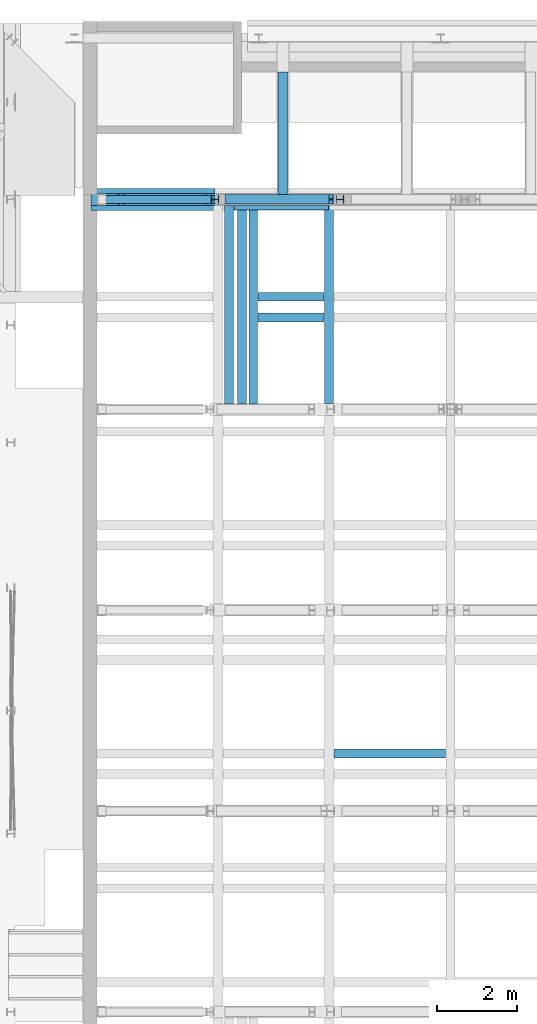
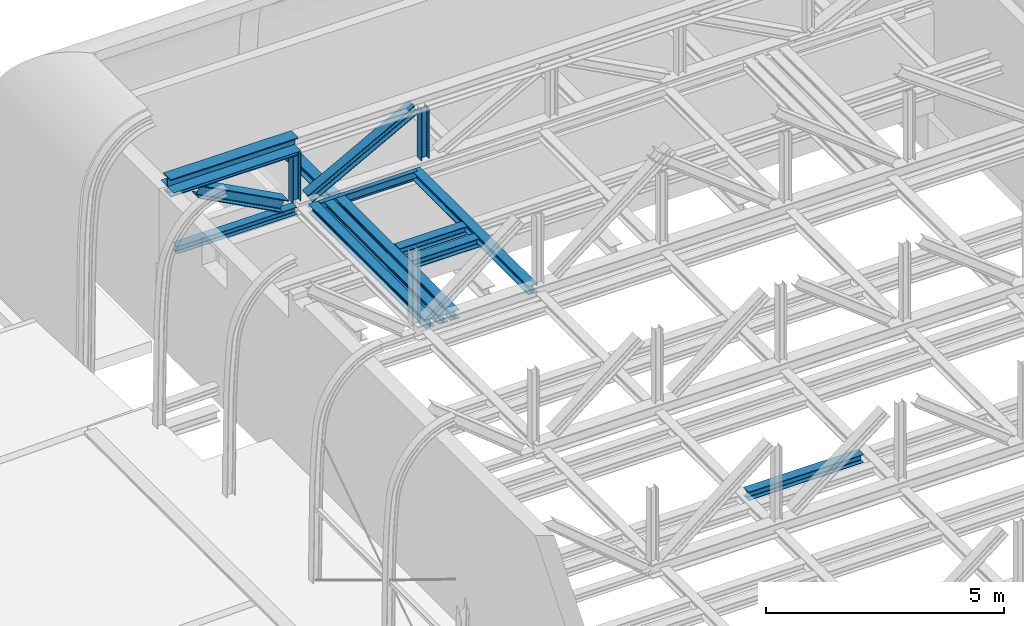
# One storey, part 17 of 29: 15 beams.
"""IFC2X3 building model written with IfcOpenShell, lengths in millimetres."""

from ifc_helpers import new_model, entity, si_unit, converted_unit, derived_unit, direction, frame, frame_2d, origin, place, context, subcontext, project, spatial, polyline, circle_curve, parameter, trimmed, segment, composite_curve, rectangle, i_section, outline, extrude, source, transform, mapped, material, material_list, type_object, type_shapes, element, save


model = new_model("IFC2X3")

# Units and contexts
model_context = context("Model", 3, precision=0.01, world=origin(), true_north=direction((6.12303176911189e-17, 1.0)))
body_context = subcontext(model_context, "Body", "Model", "MODEL_VIEW")
ifc_project = project(units=[si_unit("LENGTHUNIT", "METRE", prefix="MILLI"), si_unit("AREAUNIT", "SQUARE_METRE", prefix="MILLI"), si_unit("VOLUMEUNIT", "CUBIC_METRE"), converted_unit("PLANEANGLEUNIT", "DEGREE", entity("IfcRatioMeasure", 0.0174532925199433), si_unit("PLANEANGLEUNIT", "RADIAN"), dimensions=[0, 0, 0, 0, 0, 0, 0]), si_unit("MASSUNIT", "GRAM", prefix="KILO"), derived_unit("MASSDENSITYUNIT", [(si_unit("MASSUNIT", "GRAM", prefix="KILO"), 1), (si_unit("LENGTHUNIT", "METRE"), -3)]), derived_unit("MOMENTOFINERTIAUNIT", [(si_unit("LENGTHUNIT", "METRE"), 4)]), si_unit("TIMEUNIT", "SECOND"), si_unit("FREQUENCYUNIT", "HERTZ"), si_unit("THERMODYNAMICTEMPERATUREUNIT", "DEGREE_CELSIUS"), derived_unit("THERMALTRANSMITTANCEUNIT", [(si_unit("MASSUNIT", "GRAM", prefix="KILO"), 1), (si_unit("THERMODYNAMICTEMPERATUREUNIT", "KELVIN"), -1), (si_unit("TIMEUNIT", "SECOND"), -3)]), derived_unit("VOLUMETRICFLOWRATEUNIT", [(si_unit("LENGTHUNIT", "METRE"), 3), (si_unit("TIMEUNIT", "SECOND"), -1)]), si_unit("ELECTRICCURRENTUNIT", "AMPERE"), si_unit("ELECTRICVOLTAGEUNIT", "VOLT"), si_unit("POWERUNIT", "WATT"), si_unit("FORCEUNIT", "NEWTON", prefix="KILO"), si_unit("ILLUMINANCEUNIT", "LUX"), si_unit("LUMINOUSFLUXUNIT", "LUMEN"), si_unit("LUMINOUSINTENSITYUNIT", "CANDELA"), derived_unit("USERDEFINED", [(si_unit("MASSUNIT", "GRAM", prefix="KILO"), -1), (si_unit("LENGTHUNIT", "METRE"), -2), (si_unit("TIMEUNIT", "SECOND"), 3), (si_unit("LUMINOUSFLUXUNIT", "LUMEN"), 1)]), derived_unit("LINEARVELOCITYUNIT", [(si_unit("LENGTHUNIT", "METRE"), 1), (si_unit("TIMEUNIT", "SECOND"), -1)]), si_unit("PRESSUREUNIT", "PASCAL"), derived_unit("USERDEFINED", [(si_unit("LENGTHUNIT", "METRE"), -2), (si_unit("MASSUNIT", "GRAM", prefix="KILO"), 1), (si_unit("TIMEUNIT", "SECOND"), -2)]), derived_unit("LINEARFORCEUNIT", [(si_unit("MASSUNIT", "GRAM", prefix="KILO"), 1), (si_unit("LENGTHUNIT", "METRE"), 1), (si_unit("TIMEUNIT", "SECOND"), -2), (si_unit("LENGTHUNIT", "METRE"), -1)]), derived_unit("PLANARFORCEUNIT", [(si_unit("MASSUNIT", "GRAM", prefix="KILO"), 1), (si_unit("LENGTHUNIT", "METRE"), 1), (si_unit("TIMEUNIT", "SECOND"), -2), (si_unit("LENGTHUNIT", "METRE"), -2)])], contexts=[model_context])

# Site, building, storey
site_placement = place(None, origin())
site = spatial("IfcSite", under=ifc_project, at=site_placement, Name="Theater aan de Parade", CompositionType="ELEMENT")
building_placement = place(site_placement, origin())
building = spatial("IfcBuilding", under=site, at=building_placement, Name="Theater aan de Parade", CompositionType="ELEMENT")
storey_placement = place(building_placement, frame((0.0, 0.0, 20300.0)))
storey = spatial("IfcBuildingStorey", under=building, at=storey_placement, Name="05 vijfde verdieping", CompositionType="ELEMENT", Elevation=20300.0)

# Beams
ifc_material_1 = material(Name="00_PBT_MAT_staal_S355")
beam_type_1 = type_object("IfcBeamType", Name="28_PBT_SF_staal_H-profiel:S355_HE220B", PredefinedType="NOTDEFINED")
beam_1_placement = place(storey_placement, frame((73483.3589914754, 40060.0, 0.0), z_axis=(0.0, 0.0, 1.0), x_axis=(0.0, 1.0, 0.0)))
element("IfcBeam", 1, at=beam_1_placement, inside=storey, type_object=beam_type_1, material=ifc_material_1, Name="28_PBT_SF_staal_H-profiel:S355_HE220B", ObjectType="28_PBT_SF_staal_H-profiel:S355_HE220B", context=body_context, shape_type="SweptSolid", body=[
    extrude(outline(composite_curve([segment(polyline([(94.0, -110.0), (110.0, -110.0)]), True, "CONTINUOUS"), segment(polyline([(110.0, -110.0), (110.0, 110.0)]), True, "CONTINUOUS"), segment(polyline([(110.0, 110.0), (94.0, 110.0)]), True, "CONTINUOUS"), segment(polyline([(94.0, 110.0), (94.0, 22.7499999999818)]), True, "CONTINUOUS"), segment(trimmed(circle_curve(frame_2d((76.0, 22.7499999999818), x_axis=(1.0, 0.0)), 17.9999999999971), [parameter(269.999999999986)], [parameter(0.0)], True, "PARAMETER"), False, "CONTINUOUS"), segment(polyline([(76.0, 4.74999999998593), (-76.0, 4.74999999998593)]), True, "CONTINUOUS"), segment(trimmed(circle_curve(frame_2d((-76.0, 22.7499999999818), x_axis=(0.0, -1.0)), 17.9999999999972), [parameter(269.999999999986)], [parameter(0.0)], True, "PARAMETER"), False, "CONTINUOUS"), segment(polyline([(-94.0, 22.7499999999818), (-94.0, 110.0)]), True, "CONTINUOUS"), segment(polyline([(-94.0, 110.0), (-110.0, 110.0)]), True, "CONTINUOUS"), segment(polyline([(-110.0, 110.0), (-110.0, -110.0)]), True, "CONTINUOUS"), segment(polyline([(-110.0, -110.0), (-94.0, -110.0)]), True, "CONTINUOUS"), segment(polyline([(-94.0, -110.0), (-94.0, -22.7500000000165)]), True, "CONTINUOUS"), segment(trimmed(circle_curve(frame_2d((-76.0, -22.7500000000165), x_axis=(-1.0, 0.0)), 17.9999999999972), [parameter(269.999999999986)], [parameter(0.0)], True, "PARAMETER"), False, "CONTINUOUS"), segment(polyline([(-76.0, -4.75000000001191), (76.0, -4.75000000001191)]), True, "CONTINUOUS"), segment(trimmed(circle_curve(frame_2d((76.0, -22.7500000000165), x_axis=(0.0, 1.0)), 17.9999999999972), [parameter(269.999999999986)], [parameter(0.0)], True, "PARAMETER"), False, "CONTINUOUS"), segment(polyline([(94.0, -22.7500000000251), (94.0, -110.0)]), True, "CONTINUOUS")], self_intersect=False)), frame((0.0, 0.0, 2360.0), z_axis=(1.0, 0.0, 0.0), x_axis=(0.0, 0.0, -1.0)), (0.0, 0.0, 1.0), 4925.00000000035),
])
beam_2_placement = place(storey_placement, frame((73483.3589914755, 42712.5000000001, 0.0), z_axis=(0.0, 0.0, 1.0), x_axis=(-1.0, 0.0, 0.0)))
element("IfcBeam", 2, at=beam_2_placement, inside=storey, type_object=beam_type_1, material=ifc_material_1, Name="28_PBT_SF_staal_H-profiel:S355_HE220B", ObjectType="28_PBT_SF_staal_H-profiel:S355_HE220B", context=body_context, shape_type="SweptSolid", body=[
    extrude(outline(composite_curve([segment(polyline([(94.0, -110.0), (110.0, -110.0)]), True, "CONTINUOUS"), segment(polyline([(110.0, -110.0), (110.0, 110.0)]), True, "CONTINUOUS"), segment(polyline([(110.0, 110.0), (94.0, 110.0)]), True, "CONTINUOUS"), segment(polyline([(94.0, 110.0), (94.0, 22.7500000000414)]), True, "CONTINUOUS"), segment(trimmed(circle_curve(frame_2d((76.0, 22.7500000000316), x_axis=(1.0, 0.0)), 17.9999999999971), [parameter(269.999999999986)], [parameter(0.0)], True, "PARAMETER"), False, "CONTINUOUS"), segment(polyline([(76.0, 4.7500000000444), (-76.0, 4.74999999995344)]), True, "CONTINUOUS"), segment(trimmed(circle_curve(frame_2d((-76.0, 22.7499999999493), x_axis=(0.0, -1.0)), 17.9999999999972), [parameter(269.999999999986)], [parameter(0.0)], True, "PARAMETER"), False, "CONTINUOUS"), segment(polyline([(-94.0, 22.7499999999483), (-94.0, 110.0)]), True, "CONTINUOUS"), segment(polyline([(-94.0, 110.0), (-110.0, 110.0)]), True, "CONTINUOUS"), segment(polyline([(-110.0, 110.0), (-110.0, -110.0)]), True, "CONTINUOUS"), segment(polyline([(-110.0, -110.0), (-94.0, -110.0)]), True, "CONTINUOUS"), segment(polyline([(-94.0, -110.0), (-94.0, -22.7500000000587)]), True, "CONTINUOUS"), segment(trimmed(circle_curve(frame_2d((-76.0, -22.750000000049), x_axis=(-1.0, 0.0)), 17.9999999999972), [parameter(269.999999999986)], [parameter(0.0)], True, "PARAMETER"), False, "CONTINUOUS"), segment(polyline([(-76.0, -4.75000000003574), (76.0, -4.7499999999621)]), True, "CONTINUOUS"), segment(trimmed(circle_curve(frame_2d((76.0, -22.7499999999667), x_axis=(0.0, 1.0)), 17.9999999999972), [parameter(269.999999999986)], [parameter(0.0)], True, "PARAMETER"), False, "CONTINUOUS"), segment(polyline([(94.0, -22.7499999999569), (94.0, -110.0)]), True, "CONTINUOUS")], self_intersect=False)), frame((122.700000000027, 0.0, 2360.0), z_axis=(1.0, 0.0, 0.0), x_axis=(0.0, 0.0, -1.0)), (0.0, 0.0, 1.0), 1642.95899086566),
])
beam_3_placement = place(storey_placement, frame((73483.3589914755, 42198.4998000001, 0.0), z_axis=(0.0, 0.0, 1.0), x_axis=(-1.0, 0.0, 0.0)))
element("IfcBeam", 3, at=beam_3_placement, inside=storey, type_object=beam_type_1, material=ifc_material_1, Name="28_PBT_SF_staal_H-profiel:S355_HE220B", ObjectType="28_PBT_SF_staal_H-profiel:S355_HE220B", context=body_context, shape_type="SweptSolid", body=[
    extrude(outline(composite_curve([segment(polyline([(94.0, -110.0), (110.0, -110.0)]), True, "CONTINUOUS"), segment(polyline([(110.0, -110.0), (110.0, 110.0)]), True, "CONTINUOUS"), segment(polyline([(110.0, 110.0), (94.0, 110.0)]), True, "CONTINUOUS"), segment(polyline([(94.0, 110.0), (94.0, 22.7500000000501)]), True, "CONTINUOUS"), segment(trimmed(circle_curve(frame_2d((76.0, 22.7500000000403), x_axis=(1.0, 0.0)), 17.9999999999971), [parameter(269.999999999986)], [parameter(0.0)], True, "PARAMETER"), False, "CONTINUOUS"), segment(polyline([(76.0, 4.75000000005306), (-76.0, 4.7499999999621)]), True, "CONTINUOUS"), segment(trimmed(circle_curve(frame_2d((-76.0, 22.749999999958), x_axis=(0.0, -1.0)), 17.9999999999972), [parameter(269.999999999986)], [parameter(0.0)], True, "PARAMETER"), False, "CONTINUOUS"), segment(polyline([(-94.0, 22.7499999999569), (-94.0, 110.0)]), True, "CONTINUOUS"), segment(polyline([(-94.0, 110.0), (-110.0, 110.0)]), True, "CONTINUOUS"), segment(polyline([(-110.0, 110.0), (-110.0, -110.0)]), True, "CONTINUOUS"), segment(polyline([(-110.0, -110.0), (-94.0, -110.0)]), True, "CONTINUOUS"), segment(polyline([(-94.0, -110.0), (-94.0, -22.7500000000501)]), True, "CONTINUOUS"), segment(trimmed(circle_curve(frame_2d((-76.0, -22.7500000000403), x_axis=(-1.0, 0.0)), 17.9999999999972), [parameter(269.999999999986)], [parameter(0.0)], True, "PARAMETER"), False, "CONTINUOUS"), segment(polyline([(-76.0, -4.75000000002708), (76.0, -4.74999999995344)]), True, "CONTINUOUS"), segment(trimmed(circle_curve(frame_2d((76.0, -22.749999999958), x_axis=(0.0, 1.0)), 17.9999999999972), [parameter(269.999999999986)], [parameter(0.0)], True, "PARAMETER"), False, "CONTINUOUS"), segment(polyline([(94.0, -22.7499999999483), (94.0, -110.0)]), True, "CONTINUOUS")], self_intersect=False)), frame((122.700000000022, 0.0, 2360.0), z_axis=(1.0, 0.0, 0.0), x_axis=(0.0, 0.0, -1.0)), (0.0, 0.0, 1.0), 1642.95899086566),
])
beam_4_placement = place(storey_placement, frame((76509.4104367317, 31340.5, 0.0), z_axis=(0.0, 0.0, 1.0), x_axis=(-1.0, 0.0, 0.0)))
element("IfcBeam", 4, at=beam_4_placement, inside=storey, type_object=beam_type_1, material=ifc_material_1, Name="28_PBT_SF_staal_H-profiel:S355_HE220B", ObjectType="28_PBT_SF_staal_H-profiel:S355_HE220B", context=body_context, shape_type="SweptSolid", body=[
    extrude(outline(composite_curve([segment(polyline([(94.0, -110.0), (110.0, -110.0)]), True, "CONTINUOUS"), segment(polyline([(110.0, -110.0), (110.0, 110.0)]), True, "CONTINUOUS"), segment(polyline([(110.0, 110.0), (94.0, 110.0)]), True, "CONTINUOUS"), segment(polyline([(94.0, 110.0), (94.0, 22.7500000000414)]), True, "CONTINUOUS"), segment(trimmed(circle_curve(frame_2d((76.0, 22.7500000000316), x_axis=(1.0, 0.0)), 18.0000000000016), [parameter(270.0)], [parameter(0.0)], True, "PARAMETER"), False, "CONTINUOUS"), segment(polyline([(76.0, 4.75000000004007), (-76.0, 4.74999999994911)]), True, "CONTINUOUS"), segment(trimmed(circle_curve(frame_2d((-76.0, 22.7499999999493), x_axis=(0.0, -1.0)), 18.0000000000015), [parameter(270.0)], [parameter(0.0)], True, "PARAMETER"), False, "CONTINUOUS"), segment(polyline([(-94.0, 22.7499999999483), (-94.0, 110.0)]), True, "CONTINUOUS"), segment(polyline([(-94.0, 110.0), (-110.0, 110.0)]), True, "CONTINUOUS"), segment(polyline([(-110.0, 110.0), (-110.0, -110.0)]), True, "CONTINUOUS"), segment(polyline([(-110.0, -110.0), (-94.0, -110.0)]), True, "CONTINUOUS"), segment(polyline([(-94.0, -110.0), (-94.0, -22.7500000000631)]), True, "CONTINUOUS"), segment(trimmed(circle_curve(frame_2d((-76.0, -22.7500000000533), x_axis=(-1.0, 0.0)), 17.9999999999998), [parameter(270.0)], [parameter(0.0)], True, "PARAMETER"), False, "CONTINUOUS"), segment(polyline([(-76.0, -4.7500000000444), (76.0, -4.74999999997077)]), True, "CONTINUOUS"), segment(trimmed(circle_curve(frame_2d((76.0, -22.749999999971), x_axis=(0.0, 1.0)), 18.0000000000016), [parameter(270.0)], [parameter(0.0)], True, "PARAMETER"), False, "CONTINUOUS"), segment(polyline([(94.0, -22.7499999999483), (94.0, -110.0)]), True, "CONTINUOUS")], self_intersect=False)), frame((122.699999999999, 0.0, 2360.0), z_axis=(1.0, 0.0, 0.0), x_axis=(0.0, 0.0, -1.0)), (0.0, 0.0, 1.0), 2780.65144525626),
])
beam_5_placement = place(storey_placement, frame((70995.0, 40060.0, 0.0), z_axis=(0.0, 0.0, 1.0), x_axis=(0.0, 1.0, 0.0)))
element("IfcBeam", 5, at=beam_5_placement, inside=storey, type_object=beam_type_1, material=ifc_material_1, Name="28_PBT_SF_staal_H-profiel:S355_HE220B", ObjectType="28_PBT_SF_staal_H-profiel:S355_HE220B", context=body_context, shape_type="SweptSolid", body=[
    extrude(outline(composite_curve([segment(polyline([(94.0, -110.0), (110.0, -110.0)]), True, "CONTINUOUS"), segment(polyline([(110.0, -110.0), (110.0, 110.0)]), True, "CONTINUOUS"), segment(polyline([(110.0, 110.0), (94.0, 110.0)]), True, "CONTINUOUS"), segment(polyline([(94.0, 110.0), (94.0, 22.7500000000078)]), True, "CONTINUOUS"), segment(trimmed(circle_curve(frame_2d((76.0, 22.7500000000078), x_axis=(1.0, 0.0)), 17.9999999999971), [parameter(269.999999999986)], [parameter(0.0)], True, "PARAMETER"), False, "CONTINUOUS"), segment(polyline([(76.0, 4.75000000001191), (-76.0, 4.75000000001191)]), True, "CONTINUOUS"), segment(trimmed(circle_curve(frame_2d((-76.0, 22.7500000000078), x_axis=(0.0, -1.0)), 17.9999999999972), [parameter(269.999999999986)], [parameter(0.0)], True, "PARAMETER"), False, "CONTINUOUS"), segment(polyline([(-94.0, 22.7500000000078), (-94.0, 110.0)]), True, "CONTINUOUS"), segment(polyline([(-94.0, 110.0), (-110.0, 110.0)]), True, "CONTINUOUS"), segment(polyline([(-110.0, 110.0), (-110.0, -110.0)]), True, "CONTINUOUS"), segment(polyline([(-110.0, -110.0), (-94.0, -110.0)]), True, "CONTINUOUS"), segment(polyline([(-94.0, -110.0), (-94.0, -22.7499999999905)]), True, "CONTINUOUS"), segment(trimmed(circle_curve(frame_2d((-76.0, -22.7499999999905), x_axis=(-1.0, 0.0)), 17.9999999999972), [parameter(269.999999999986)], [parameter(0.0)], True, "PARAMETER"), False, "CONTINUOUS"), segment(polyline([(-76.0, -4.74999999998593), (76.0, -4.74999999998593)]), True, "CONTINUOUS"), segment(trimmed(circle_curve(frame_2d((76.0, -22.7499999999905), x_axis=(0.0, 1.0)), 17.9999999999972), [parameter(269.999999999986)], [parameter(0.0)], True, "PARAMETER"), False, "CONTINUOUS"), segment(polyline([(94.0, -22.7499999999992), (94.0, -110.0)]), True, "CONTINUOUS")], self_intersect=False)), frame((0.0, 0.0, 2360.0), z_axis=(1.0, 0.0, 0.0), x_axis=(0.0, 0.0, -1.0)), (0.0, 0.0, 1.0), 4925.00000000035),
])
beam_6_placement = place(storey_placement, frame((71315.0, 40060.0, 0.0), z_axis=(0.0, 0.0, 1.0), x_axis=(0.0, 1.0, 0.0)))
element("IfcBeam", 6, at=beam_6_placement, inside=storey, type_object=beam_type_1, material=ifc_material_1, Name="28_PBT_SF_staal_H-profiel:S355_HE220B", ObjectType="28_PBT_SF_staal_H-profiel:S355_HE220B", context=body_context, shape_type="SweptSolid", body=[
    extrude(outline(composite_curve([segment(polyline([(94.0, -110.0), (110.0, -110.0)]), True, "CONTINUOUS"), segment(polyline([(110.0, -110.0), (110.0, 110.0)]), True, "CONTINUOUS"), segment(polyline([(110.0, 110.0), (94.0, 110.0)]), True, "CONTINUOUS"), segment(polyline([(94.0, 110.0), (94.0, 22.7499999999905)]), True, "CONTINUOUS"), segment(trimmed(circle_curve(frame_2d((76.0, 22.7499999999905), x_axis=(1.0, 0.0)), 17.9999999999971), [parameter(269.999999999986)], [parameter(0.0)], True, "PARAMETER"), False, "CONTINUOUS"), segment(polyline([(76.0, 4.74999999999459), (-76.0, 4.74999999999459)]), True, "CONTINUOUS"), segment(trimmed(circle_curve(frame_2d((-76.0, 22.7499999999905), x_axis=(0.0, -1.0)), 17.9999999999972), [parameter(269.999999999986)], [parameter(0.0)], True, "PARAMETER"), False, "CONTINUOUS"), segment(polyline([(-94.0, 22.7499999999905), (-94.0, 110.0)]), True, "CONTINUOUS"), segment(polyline([(-94.0, 110.0), (-110.0, 110.0)]), True, "CONTINUOUS"), segment(polyline([(-110.0, 110.0), (-110.0, -110.0)]), True, "CONTINUOUS"), segment(polyline([(-110.0, -110.0), (-94.0, -110.0)]), True, "CONTINUOUS"), segment(polyline([(-94.0, -110.0), (-94.0, -22.7500000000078)]), True, "CONTINUOUS"), segment(trimmed(circle_curve(frame_2d((-76.0, -22.7500000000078), x_axis=(-1.0, 0.0)), 17.9999999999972), [parameter(269.999999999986)], [parameter(0.0)], True, "PARAMETER"), False, "CONTINUOUS"), segment(polyline([(-76.0, -4.75000000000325), (76.0, -4.75000000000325)]), True, "CONTINUOUS"), segment(trimmed(circle_curve(frame_2d((76.0, -22.7500000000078), x_axis=(0.0, 1.0)), 17.9999999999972), [parameter(269.999999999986)], [parameter(0.0)], True, "PARAMETER"), False, "CONTINUOUS"), segment(polyline([(94.0, -22.7500000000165), (94.0, -110.0)]), True, "CONTINUOUS")], self_intersect=False)), frame((0.0, 0.0, 2360.0), z_axis=(1.0, 0.0, 0.0), x_axis=(0.0, 0.0, -1.0)), (0.0, 0.0, 1.0), 4925.00000000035),
])
beam_7_placement = place(storey_placement, frame((71595.0, 40060.0, 0.0), z_axis=(0.0, 0.0, 1.0), x_axis=(0.0, 1.0, 0.0)))
element("IfcBeam", 7, at=beam_7_placement, inside=storey, type_object=beam_type_1, material=ifc_material_1, Name="28_PBT_SF_staal_H-profiel:S355_HE220B", ObjectType="28_PBT_SF_staal_H-profiel:S355_HE220B", context=body_context, shape_type="SweptSolid", body=[
    extrude(outline(composite_curve([segment(polyline([(94.0, -110.0), (110.0, -110.0)]), True, "CONTINUOUS"), segment(polyline([(110.0, -110.0), (110.0, 110.0)]), True, "CONTINUOUS"), segment(polyline([(110.0, 110.0), (94.0, 110.0)]), True, "CONTINUOUS"), segment(polyline([(94.0, 110.0), (94.0, 22.7500000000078)]), True, "CONTINUOUS"), segment(trimmed(circle_curve(frame_2d((76.0, 22.7500000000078), x_axis=(1.0, 0.0)), 17.9999999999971), [parameter(269.999999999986)], [parameter(0.0)], True, "PARAMETER"), False, "CONTINUOUS"), segment(polyline([(76.0, 4.75000000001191), (-76.0, 4.75000000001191)]), True, "CONTINUOUS"), segment(trimmed(circle_curve(frame_2d((-76.0, 22.7500000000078), x_axis=(0.0, -1.0)), 17.9999999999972), [parameter(269.999999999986)], [parameter(0.0)], True, "PARAMETER"), False, "CONTINUOUS"), segment(polyline([(-94.0, 22.7500000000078), (-94.0, 110.0)]), True, "CONTINUOUS"), segment(polyline([(-94.0, 110.0), (-110.0, 110.0)]), True, "CONTINUOUS"), segment(polyline([(-110.0, 110.0), (-110.0, -110.0)]), True, "CONTINUOUS"), segment(polyline([(-110.0, -110.0), (-94.0, -110.0)]), True, "CONTINUOUS"), segment(polyline([(-94.0, -110.0), (-94.0, -22.7499999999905)]), True, "CONTINUOUS"), segment(trimmed(circle_curve(frame_2d((-76.0, -22.7499999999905), x_axis=(-1.0, 0.0)), 17.9999999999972), [parameter(269.999999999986)], [parameter(0.0)], True, "PARAMETER"), False, "CONTINUOUS"), segment(polyline([(-76.0, -4.74999999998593), (76.0, -4.74999999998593)]), True, "CONTINUOUS"), segment(trimmed(circle_curve(frame_2d((76.0, -22.7499999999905), x_axis=(0.0, 1.0)), 17.9999999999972), [parameter(269.999999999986)], [parameter(0.0)], True, "PARAMETER"), False, "CONTINUOUS"), segment(polyline([(94.0, -22.7499999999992), (94.0, -110.0)]), True, "CONTINUOUS")], self_intersect=False)), frame((0.0, 0.0, 2360.0), z_axis=(1.0, 0.0, 0.0), x_axis=(0.0, 0.0, -1.0)), (0.0, 0.0, 1.0), 4925.00000000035),
])
beam_type_2 = type_object("IfcBeamType", Name="28_PBT_SF_staal_H-profiel:S355_HE300B", PredefinedType="NOTDEFINED")
beam_8_placement = place(storey_placement, frame((67203.3195455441, 45135.0, 4250.0), z_axis=(0.469081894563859, 0.0, 0.883154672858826), x_axis=(0.883154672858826, 0.0, -0.469081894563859)))
element("IfcBeam", 8, at=beam_8_placement, inside=storey, type_object=beam_type_2, material=ifc_material_1, Name="28_PBT_SF_staal_H-profiel:S355_HE300B", ObjectType="28_PBT_SF_staal_H-profiel:S355_HE300B", context=body_context, shape_type="SweptSolid", body=[
    extrude(i_section(OverallWidth=300.000000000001, OverallDepth=299.999999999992, WebThickness=10.9999999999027, FlangeThickness=18.9999999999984, FilletRadius=26.9999999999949, at=frame_2d((0.0, 0.0), x_axis=(0.0, 1.0))), frame((1254.4302984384, 0.0, 0.0), z_axis=(1.0, 0.0, 0.0), x_axis=(0.0, 0.0, -1.0)), (0.0, 0.0, 1.0), 2309.06144656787),
])
beam_type_3 = type_object("IfcBeamType", Name="28_PBT_SF_staal_H-profiel:S355_HE200A", PredefinedType="NOTDEFINED")
beam_9_placement = place(storey_placement, frame((73751.2561009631, 45135.0, 2400.0), z_axis=(1.0, 0.0, 0.0), x_axis=(0.0, 0.0, 1.0)))
element("IfcBeam", 9, at=beam_9_placement, inside=storey, type_object=beam_type_3, material=ifc_material_1, Name="28_PBT_SF_staal_H-profiel:S355_HE200A", ObjectType="28_PBT_SF_staal_H-profiel:S355_HE200A", context=body_context, shape_type="SweptSolid", body=[
    extrude(i_section(OverallWidth=199.999999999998, OverallDepth=190.0, WebThickness=6.49999999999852, FlangeThickness=9.99999999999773, FilletRadius=17.9999999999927, at=frame_2d((-4.33431068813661e-12, -4.33431068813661e-12), x_axis=(0.0, 1.0))), frame((162.699999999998, 0.0, 0.0), z_axis=(1.0, 0.0, 0.0), x_axis=(0.0, 0.0, -1.0)), (0.0, 0.0, 1.0), 1297.55325826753),
])
beam_10_placement = place(storey_placement, frame((67742.4666036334, 45135.0, 2345.0)))
element("IfcBeam", 10, at=beam_10_placement, inside=storey, type_object=beam_type_3, material=ifc_material_1, Name="28_PBT_SF_staal_H-profiel:S355_HE200A", ObjectType="28_PBT_SF_staal_H-profiel:S355_HE200A", context=body_context, shape_type="SweptSolid", body=[
    extrude(i_section(OverallWidth=200.000000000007, OverallDepth=190.0, WebThickness=6.49999999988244, FlangeThickness=9.99999999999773, FilletRadius=17.9999999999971, at=frame_2d((-4.33431068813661e-12, 4.33431068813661e-12), x_axis=(0.0, 1.0))), frame((0.0, 0.0, 0.0), z_axis=(1.0, 0.0, 0.0), x_axis=(0.0, 0.0, -1.0)), (0.0, 0.0, 1.0), 2898.78949732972),
])
beam_11_placement = place(storey_placement, frame((70641.2561009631, 45135.0, 2345.0), z_axis=(1.0, 0.0, 0.0), x_axis=(0.0, 0.0, 1.0)))
element("IfcBeam", 11, at=beam_11_placement, inside=storey, type_object=beam_type_3, material=ifc_material_1, Name="28_PBT_SF_staal_H-profiel:S355_HE200A", ObjectType="28_PBT_SF_staal_H-profiel:S355_HE200A", context=body_context, shape_type="SweptSolid", body=[
    extrude(i_section(OverallWidth=199.999999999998, OverallDepth=190.0, WebThickness=6.49999999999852, FlangeThickness=9.99999999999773, FilletRadius=17.9999999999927, at=frame_2d((2.16573425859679e-11, -4.33431068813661e-12), x_axis=(0.0, 1.0))), frame((217.69999999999, 0.0, 0.0), z_axis=(1.0, 0.0, 0.0), x_axis=(0.0, 0.0, -1.0)), (0.0, 0.0, 1.0), 1224.6),
])
beam_type_4 = type_object("IfcBeamType", Name="28_PBT_SF_staal_H-profiel:S355_HE240B", PredefinedType="NOTDEFINED")
beam_12_placement = place(storey_placement, frame((70577.874051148, 45135.0, 2345.0), z_axis=(-0.475979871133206, 0.0, 0.879456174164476), x_axis=(0.879456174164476, 0.0, 0.475979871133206)))
element("IfcBeam", 12, at=beam_12_placement, inside=storey, type_object=beam_type_4, material=ifc_material_1, Name="28_PBT_SF_staal_H-profiel:S355_HE240B", ObjectType="28_PBT_SF_staal_H-profiel:S355_HE240B", context=body_context, shape_type="SweptSolid", body=[
    extrude(i_section(OverallWidth=239.999999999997, OverallDepth=240.000000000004, WebThickness=9.99999999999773, FlangeThickness=16.9999999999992, FilletRadius=21.0000000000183, at=frame_2d((0.0, -8.66151594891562e-12), x_axis=(0.0, 1.0))), frame((424.781704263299, 0.0, 0.0), z_axis=(1.0, 0.0, 0.0), x_axis=(0.0, 0.0, -1.0)), (0.0, 0.0, 1.0), 2939.2762500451),
])
beam_13_placement = place(storey_placement, frame((72331.4123441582, 48302.0, 0.0), z_axis=(0.0, 0.0, 1.0), x_axis=(0.0, -1.0, 0.0)))
element("IfcBeam", 13, at=beam_13_placement, inside=storey, type_object=beam_type_4, material=ifc_material_1, Name="28_PBT_SF_staal_H-profiel:S355_HE240B", ObjectType="28_PBT_SF_staal_H-profiel:S355_HE240B", context=body_context, shape_type="SweptSolid", body=[
    extrude(outline(composite_curve([segment(polyline([(103.0, -120.0), (120.0, -120.0)]), True, "CONTINUOUS"), segment(polyline([(120.0, -120.0), (120.0, 120.0)]), True, "CONTINUOUS"), segment(polyline([(120.0, 120.0), (103.0, 120.0)]), True, "CONTINUOUS"), segment(polyline([(103.0, 120.0), (103.0, 26.0)]), True, "CONTINUOUS"), segment(trimmed(circle_curve(frame_2d((82.0, 26.0), x_axis=(1.0, 0.0)), 21.0000000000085), [parameter(270.000000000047)], [parameter(0.0)], True, "PARAMETER"), False, "CONTINUOUS"), segment(polyline([(82.0, 5.0), (-82.0, 5.0)]), True, "CONTINUOUS"), segment(trimmed(circle_curve(frame_2d((-82.0, 26.0), x_axis=(0.0, -1.0)), 21.0000000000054), [parameter(270.000000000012)], [parameter(0.0)], True, "PARAMETER"), False, "CONTINUOUS"), segment(polyline([(-103.0, 26.0), (-103.0, 120.0)]), True, "CONTINUOUS"), segment(polyline([(-103.0, 120.0), (-120.0, 120.0)]), True, "CONTINUOUS"), segment(polyline([(-120.0, 120.0), (-120.0, -120.0)]), True, "CONTINUOUS"), segment(polyline([(-120.0, -120.0), (-103.0, -120.0)]), True, "CONTINUOUS"), segment(polyline([(-103.0, -120.0), (-103.0, -26.0)]), True, "CONTINUOUS"), segment(trimmed(circle_curve(frame_2d((-82.0, -26.0), x_axis=(-1.0, 0.0)), 21.0000000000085), [parameter(270.000000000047)], [parameter(0.0)], True, "PARAMETER"), False, "CONTINUOUS"), segment(polyline([(-82.0, -5.0), (82.0, -5.0)]), True, "CONTINUOUS"), segment(trimmed(circle_curve(frame_2d((82.0, -26.0), x_axis=(0.0, 1.0)), 21.0000000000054), [parameter(270.000000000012)], [parameter(0.0)], True, "PARAMETER"), False, "CONTINUOUS"), segment(polyline([(103.0, -26.0), (103.0, -120.0)]), True, "CONTINUOUS")], self_intersect=False)), frame((0.0, 0.0, 1275.0), z_axis=(1.0, 0.0, 0.0), x_axis=(0.0, 0.0, -1.0)), (0.0, 0.0, 1.0), 3041.99999999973),
])
beam_type_5 = type_object("IfcBeamType", Name="28_PBT_SF_staal_IPE-profiel:S355_IPE220", PredefinedType="NOTDEFINED")
beam_14_placement = place(storey_placement, frame((73483.3589914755, 44930.0, 0.0), z_axis=(0.0, 0.0, 1.0), x_axis=(-1.0, 0.0, 0.0)))
element("IfcBeam", 14, at=beam_14_placement, inside=storey, type_object=beam_type_5, material=ifc_material_1, Name="28_PBT_SF_staal_IPE-profiel:S355_IPE220", ObjectType="28_PBT_SF_staal_IPE-profiel:S355_IPE220", context=body_context, shape_type="SweptSolid", body=[
    extrude(outline(composite_curve([segment(polyline([(100.800000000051, -55.0), (110.0, -55.0)]), True, "CONTINUOUS"), segment(polyline([(110.0, -55.0), (110.0, 55.0)]), True, "CONTINUOUS"), segment(polyline([(110.0, 55.0), (100.799999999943, 55.0)]), True, "CONTINUOUS"), segment(polyline([(100.799999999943, 55.0), (100.799999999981, 14.9500000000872)]), True, "CONTINUOUS"), segment(trimmed(circle_curve(frame_2d((88.7999999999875, 14.9500000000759), x_axis=(1.0, 0.0)), 11.9999999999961), [parameter(269.999999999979)], [parameter(0.0)], True, "PARAMETER"), False, "CONTINUOUS"), segment(polyline([(88.7999999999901, 2.95000000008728), (-88.8000000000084, 2.94999999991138)]), True, "CONTINUOUS"), segment(trimmed(circle_curve(frame_2d((-88.8000000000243, 14.9499999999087), x_axis=(0.0, -1.0)), 11.9999999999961), [parameter(269.999999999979)], [parameter(0.0)], True, "PARAMETER"), False, "CONTINUOUS"), segment(polyline([(-100.800000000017, 14.949999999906), (-100.800000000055, 55.0)]), True, "CONTINUOUS"), segment(polyline([(-100.800000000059, 55.0), (-110.0, 55.0)]), True, "CONTINUOUS"), segment(polyline([(-110.0, 55.0), (-110.0, -55.0)]), True, "CONTINUOUS"), segment(polyline([(-110.0, -55.0), (-100.799999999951, -55.0)]), True, "CONTINUOUS"), segment(polyline([(-100.799999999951, -55.0), (-100.799999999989, -14.9500000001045)]), True, "CONTINUOUS"), segment(trimmed(circle_curve(frame_2d((-88.7999999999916, -14.9500000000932), x_axis=(-1.0, 0.0)), 11.9999999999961), [parameter(269.999999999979)], [parameter(0.0)], True, "PARAMETER"), False, "CONTINUOUS"), segment(polyline([(-88.7999999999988, -2.95000000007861), (88.8000000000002, -2.94999999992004)]), True, "CONTINUOUS"), segment(trimmed(circle_curve(frame_2d((88.8000000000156, -14.949999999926), x_axis=(0.0, 1.0)), 11.9999999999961), [parameter(269.999999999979)], [parameter(0.0)], True, "PARAMETER"), False, "CONTINUOUS"), segment(polyline([(100.800000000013, -14.949999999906), (100.800000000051, -55.0)]), True, "CONTINUOUS")], self_intersect=False)), frame((12.7000006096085, 0.0, 2360.0), z_axis=(1.0, 0.0, 0.0), x_axis=(0.0, 0.0, -1.0)), (0.0, 0.0, 1.0), 2352.95899086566),
])
ifc_material_2 = material(Name="00_PBT_MAT_Lucht")
ifc_material_list = material_list([ifc_material_1, ifc_material_2])
beam_type_6 = type_object("IfcBeamType", Name="28_PBT_SF_staal_H-profiel_met_oplegstrippen (void):S355_HE450B + oplegstrippen d=12", PredefinedType="BEAM", material=ifc_material_list)
shared_shape = source(origin(), body_context, "Body", "SweptSolid", [
    extrude(rectangle(XDim=12.0, YDim=270.0, at=frame_2d((-1.77635683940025e-15, -1.4210854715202e-14), x_axis=(1.0, 0.0))), frame((-1449.29999999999, -142.0, -41.0), z_axis=(1.0, 0.0, 0.0), x_axis=(0.0, 0.0, -1.0)), (0.0, 0.0, 1.0), 3086.29999999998),
    extrude(rectangle(XDim=12.0, YDim=270.0, at=frame_2d((8.43769498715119e-15, 0.0), x_axis=(1.0, 0.0))), frame((-1449.29999999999, 142.0, -41.0), z_axis=(1.0, 0.0, 0.0), x_axis=(0.0, 0.0, -1.0)), (0.0, 0.0, 1.0), 3086.29999999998),
    extrude(i_section(OverallWidth=300.0, OverallDepth=450.0, WebThickness=14.0, FlangeThickness=25.9999999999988, FilletRadius=27.0, at=frame_2d((-3.97903932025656e-13, 0.0), x_axis=(0.0, 1.0))), frame((-1449.3, 0.0, 0.0), z_axis=(1.0, 0.0, 0.0), x_axis=(0.0, 0.0, -1.0)), (0.0, 0.0, 1.0), 3086.29999999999),
])
type_shapes(beam_type_6, [shared_shape])
beam_15_placement = place(storey_placement, frame((69004.2561009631, 45135.0, 4025.0)))
element("IfcBeam", 15, at=beam_15_placement, inside=storey, type_object=beam_type_6, material=ifc_material_1, Name="28_PBT_SF_staal_H-profiel_met_oplegstrippen (void):S355_HE450B + oplegstrippen d=12", ObjectType="28_PBT_SF_staal_H-profiel_met_oplegstrippen (void):S355_HE450B + oplegstrippen d=12", context=body_context, shape_type="MappedRepresentation", body=[
    mapped(shared_shape, transform((0.0, 0.0, 0.0), scale=1.0)),
])

save(model, "model.ifc")
